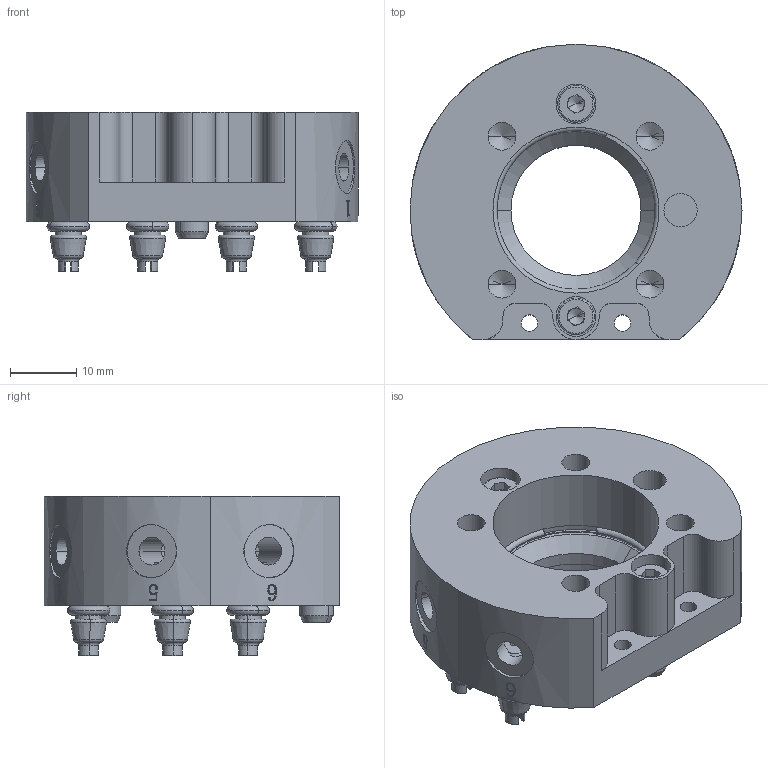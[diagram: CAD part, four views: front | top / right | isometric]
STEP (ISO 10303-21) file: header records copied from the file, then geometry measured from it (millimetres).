
FILE_DESCRIPTION (( 'STEP AP214' ), '1' );
FILE_NAME ('QCA-05G1笥撿耜蚾饜.STEP', '2023-12-12T05:34:16', ( '' ), ( '' ), 'SwSTEP 2.0', 'SolidWorks 2018', '' );
FILE_SCHEMA (( 'AUTOMOTIVE_DESIGN' ));
Length unit declared in the file: millimetre
Products named in the file (8): hexagon socket head cap screws gb_GB_FASTENER_SCREWS_HSHCS M3X10-N; QCSM-05种隊; 1.2MM挡圈; QCSM-05階渀; QCSM-05G菁釱; 顶针用密封圈5.0; QCA-5笥撿耜縐踡楊擘; QCA-05G1笥撿耜蚾饜
Assembly tree (19 placements, depth 2):
  QCA-05G1笥撿耜蚾饜
    QCSM-05G菁釱
    QCA-5笥撿耜縐踡楊擘
    QCSM-05階渀  x6
    QCSM-05种隊  x2
    hexagon socket head cap screws gb_GB_FASTENER_SCREWS_HSHCS M3X10-N  x2
    顶针用密封圈5.0  x6
    1.2MM挡圈
Bounding box: 50 x 44.5 x 24 mm (x, y, z)
Volume: 21410.3 mm3; surface area: 14188.1 mm2
Topology: 19 solids, 19 shells, 595 faces, 1460 edges, 901 vertices
Faces by surface type: plane 166, cylinder 159, torus 108, cone 89, bspline 73
Entity records: 20233 total; most frequent: CARTESIAN_POINT 11523, ORIENTED_EDGE 1752, DIRECTION 1508, EDGE_CURVE 876, AXIS2_PLACEMENT_3D 621, VERTEX_POINT 565, EDGE_LOOP 409, ADVANCED_FACE 353
